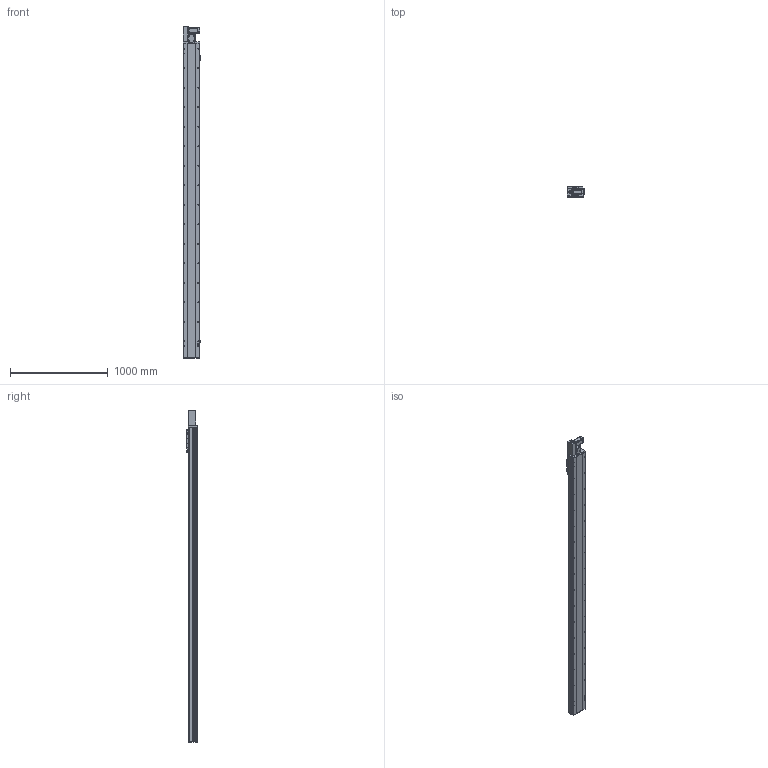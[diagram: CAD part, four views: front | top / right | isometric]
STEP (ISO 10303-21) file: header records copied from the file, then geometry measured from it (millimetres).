
FILE_DESCRIPTION (( 'STEP AP214' ), '1' );
FILE_NAME ('TPE17-L40-2900-L-T40-C4.STEP', '2023-04-12T03:13:37', ( '' ), ( '' ), 'SwSTEP 2.0', 'SolidWorks 2020', '' );
FILE_SCHEMA (( 'AUTOMOTIVE_DESIGN' ));
Length unit declared in the file: millimetre
Products named in the file (12): TPE17-L40-2900-L-T40-C4; hex nuts, style 1-grades ab gb_GB_FASTENER_NUT_SNAB1 M3-N; hexagon head bolts-full thread gb_GB_FASTENER_BOLT_STBAB A M5X16-N; 葩璃 TPE17-L-002 耜裔ZTMZ-135-04^TPE17-L40-L-T40-C4; 葩璃 侂狟400W^TPE17-L40-L-T40-C4; 葩璃 pm-t65-672^TPE17-L40-L-T40-C4; 葩璃 TPE17-L-007 々湍釱MZ-169x88^TPE17-L40-L-T40-C4_TPE17; hexagon socket head cap screws gb_GB_FASTENER_SCREWS_HSHCS M3X6-N; 葩璃 TPT14-L-009 萇儂啣^TPE17-L40-L-T40-C4_400W; 葩璃 詩湍110^TPE17-L40-L-T40-C4; 葩璃 TPE17 賑雄殤^TPE17-L40-L-T40-C4; 葩璃 TPE17-L-001 菁釱MZ-170-01^TPE17-L40-L-T40-C4
Assembly tree (24 placements, depth 2):
  TPE17-L40-2900-L-T40-C4
    葩璃 TPE17-L-001 菁釱MZ-170-01^TPE17-L40-L-T40-C4
    葩璃 TPE17-L-002 耜裔ZTMZ-135-04^TPE17-L40-L-T40-C4  x2
    葩璃 詩湍110^TPE17-L40-L-T40-C4
    葩璃 TPE17-L-007 々湍釱MZ-169x88^TPE17-L40-L-T40-C4_TPE17
    葩璃 TPT14-L-009 萇儂啣^TPE17-L40-L-T40-C4_400W
    葩璃 TPE17 賑雄殤^TPE17-L40-L-T40-C4
    葩璃 pm-t65-672^TPE17-L40-L-T40-C4  x3
    葩璃 侂狟400W^TPE17-L40-L-T40-C4
    hexagon socket head cap screws gb_GB_FASTENER_SCREWS_HSHCS M3X6-N  x6
    hex nuts, style 1-grades ab gb_GB_FASTENER_NUT_SNAB1 M3-N  x6
    hexagon head bolts-full thread gb_GB_FASTENER_BOLT_STBAB A M5X16-N
Bounding box: 183.7 x 107 x 3403.65 mm (x, y, z)
Volume: 29127508.5 mm3; surface area: 3627950.1 mm2
Topology: 35 solids, 35 shells, 1778 faces, 4527 edges, 2828 vertices
Faces by surface type: plane 981, cylinder 505, cone 246, bspline 34, torus 12
Entity records: 42371 total; most frequent: CARTESIAN_POINT 8160, DIRECTION 6792, ORIENTED_EDGE 6502, EDGE_CURVE 3251, AXIS2_PLACEMENT_3D 2333, VECTOR 2126, LINE 2126, VERTEX_POINT 2091
